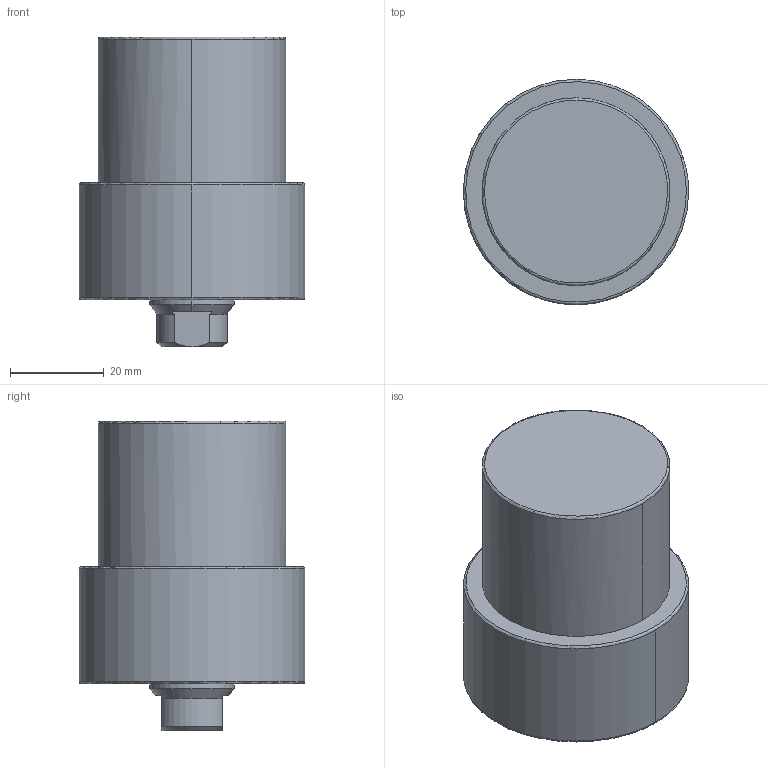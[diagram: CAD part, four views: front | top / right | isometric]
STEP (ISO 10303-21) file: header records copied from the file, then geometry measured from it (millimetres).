
FILE_DESCRIPTION((' '),'2;1');
FILE_NAME( 'TLLU-040GA-020.STEP.stp', '2025-10-24T16:37:10', (' '), ('--- Datakit www.datakit.com---'), ' Datakit CrossCadWare V2024.1 Dec 21 2023', 'Mastercam 2025', ' ');
FILE_SCHEMA(('AUTOMOTIVE_DESIGN { 1 0 10303 214 1 1 1 1 }'));
Length unit declared in the file: millimetre
Products named in the file (1): TLLU-040GA-020
Bounding box: 47.99 x 48 x 66 mm (x, y, z)
Volume: 84206.9 mm3; surface area: 12879.3 mm2
Topology: 1 solids, 1 shells, 62 faces, 180 edges, 119 vertices
Faces by surface type: cone 24, cylinder 22, plane 10, torus 6
Entity records: 2106 total; most frequent: DIRECTION 402, CARTESIAN_POINT 388, ORIENTED_EDGE 340, AXIS2_PLACEMENT_3D 177, EDGE_CURVE 170, VERTEX_POINT 119, CIRCLE 114, EDGE_LOOP 71
